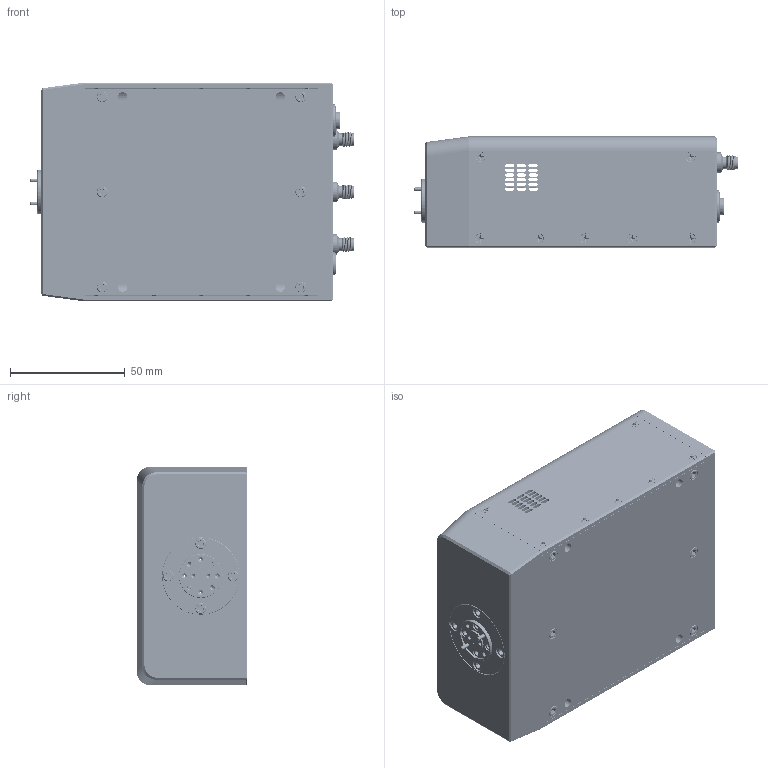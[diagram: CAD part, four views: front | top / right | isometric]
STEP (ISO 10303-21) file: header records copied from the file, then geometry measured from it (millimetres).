
FILE_DESCRIPTION (( 'STEP AP214' ), '1' );
FILE_NAME ('TO-TV-A Mountable.STEP', '2024-11-21T18:50:40', ( '' ), ( '' ), 'SwSTEP 2.0', 'SolidWorks 2021', '' );
FILE_SCHEMA (( 'AUTOMOTIVE_DESIGN' ));
Length unit declared in the file: inch
Products named in the file (1): TO-TV-A Mountable
Bounding box: 140.66 x 48.26 x 95.25 mm (x, y, z)
Volume: 178011.5 mm3; surface area: 116420.6 mm2
Topology: 62 solids, 62 shells, 3744 faces, 9913 edges, 6306 vertices
Faces by surface type: cylinder 1743, plane 941, cone 671, bspline 351, sphere 30, torus 8
Entity records: 218544 total; most frequent: CARTESIAN_POINT 134385, ORIENTED_EDGE 19532, DIRECTION 15055, EDGE_CURVE 9766, VERTEX_POINT 6303, AXIS2_PLACEMENT_3D 5716, EDGE_LOOP 4125, FACE_OUTER_BOUND 3744
